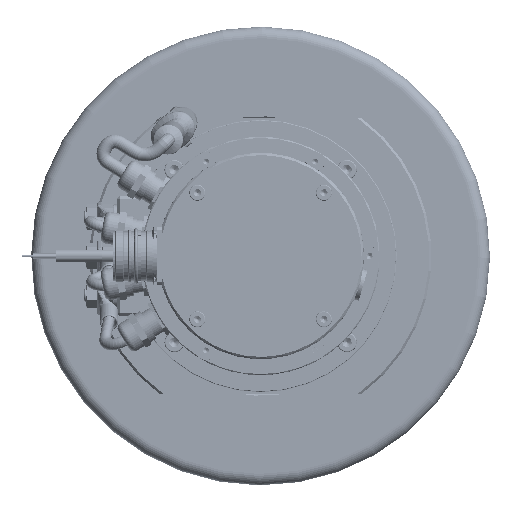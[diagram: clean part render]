
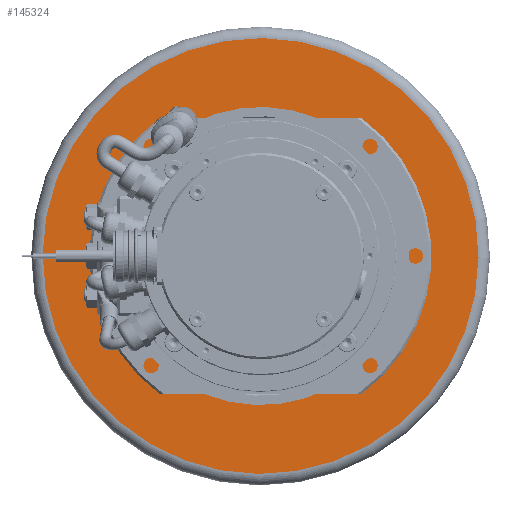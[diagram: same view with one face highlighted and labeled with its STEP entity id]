
A CAD part, left-side view. The second image highlights one B-rep face of the part: STEP entity #145324.
In plain terms, the highlighted planar face has unit normal (-1, 0, 0).
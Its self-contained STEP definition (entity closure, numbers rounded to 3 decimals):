
#2841=FACE_BOUND('',#19616,.T.);
#5394=CIRCLE('',#153958,95.);
#5400=CIRCLE('',#153966,65.);
#11931=FACE_OUTER_BOUND('',#19615,.T.);
#19615=EDGE_LOOP('',(#92587));
#19616=EDGE_LOOP('',(#92588));
#54809=VERTEX_POINT('',#212284);
#54814=VERTEX_POINT('',#212298);
#69307=EDGE_CURVE('',#54809,#54809,#5394,.T.);
#69314=EDGE_CURVE('',#54814,#54814,#5400,.T.);
#92587=ORIENTED_EDGE('',*,*,#69307,.F.);
#92588=ORIENTED_EDGE('',*,*,#69314,.F.);
#131994=PLANE('',#153965);
#145324=ADVANCED_FACE('',(#11931,#2841),#131994,.T.);
#153958=AXIS2_PLACEMENT_3D('',#212285,#171348,#171349);
#153965=AXIS2_PLACEMENT_3D('',#212297,#171363,#171364);
#153966=AXIS2_PLACEMENT_3D('',#212299,#171365,#171366);
#171348=DIRECTION('center_axis',(1.,0.,0.));
#171349=DIRECTION('ref_axis',(0.,-0.648,0.761));
#171363=DIRECTION('center_axis',(-1.,0.,0.));
#171364=DIRECTION('ref_axis',(0.,0.761,0.648));
#171365=DIRECTION('center_axis',(-1.,0.,0.));
#171366=DIRECTION('ref_axis',(0.,-0.304,-0.953));
#212284=CARTESIAN_POINT('',(-54.5,-72.331,-61.59));
#212285=CARTESIAN_POINT('Origin',(-54.5,0.,0.));
#212297=CARTESIAN_POINT('Origin',(-54.5,42.14,-49.489));
#212298=CARTESIAN_POINT('',(-54.5,-61.913,19.792));
#212299=CARTESIAN_POINT('Origin',(-54.5,0.,0.));
